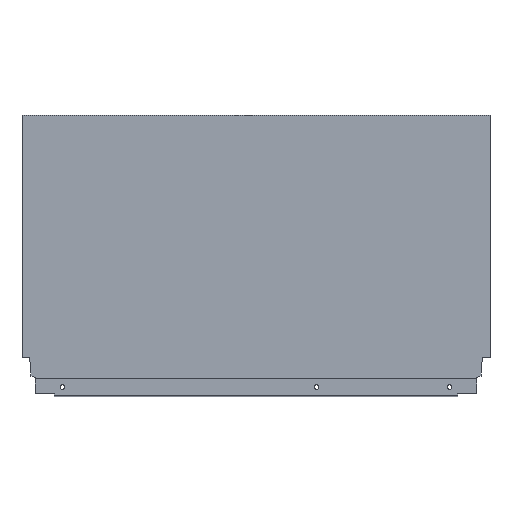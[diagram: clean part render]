
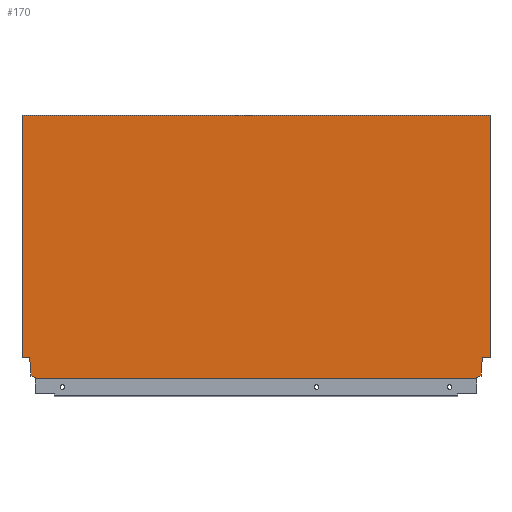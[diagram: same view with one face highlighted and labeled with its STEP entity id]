
A CAD part, top view. The second image highlights one B-rep face of the part: STEP entity #170.
In plain terms, the highlighted planar face has unit normal (0, 0, 1).
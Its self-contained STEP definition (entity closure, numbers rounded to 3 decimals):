
#2 = LINE ( 'NONE', #751, #1315 ) ;
#3 = VECTOR ( 'NONE', #752, 1000. ) ;
#4 = LINE ( 'NONE', #753, #3 ) ;
#5 = VECTOR ( 'NONE', #755, 1000. ) ;
#6 = LINE ( 'NONE', #756, #5 ) ;
#7 = VECTOR ( 'NONE', #757, 1000. ) ;
#8 = LINE ( 'NONE', #758, #7 ) ;
#113 = AXIS2_PLACEMENT_3D ( 'NONE', #950, #942, #940 ) ;
#170 = ADVANCED_FACE ( 'NONE', ( #374 ), #954, .T. ) ;
#258 = EDGE_CURVE ( 'NONE', #875, #1090, #309, .T. ) ;
#259 = EDGE_CURVE ( 'NONE', #875, #886, #316, .T. ) ;
#260 = EDGE_CURVE ( 'NONE', #1198, #1193, #1304, .T. ) ;
#262 = EDGE_CURVE ( 'NONE', #886, #1024, #1300, .T. ) ;
#263 = EDGE_CURVE ( 'NONE', #1193, #885, #1298, .T. ) ;
#264 = EDGE_CURVE ( 'NONE', #1097, #885, #1296, .T. ) ;
#265 = EDGE_CURVE ( 'NONE', #1024, #1198, #1294, .T. ) ;
#266 = EDGE_CURVE ( 'NONE', #933, #937, #1292, .T. ) ;
#267 = EDGE_CURVE ( 'NONE', #1040, #1090, #1290, .T. ) ;
#268 = EDGE_CURVE ( 'NONE', #895, #933, #8, .T. ) ;
#269 = EDGE_CURVE ( 'NONE', #937, #1040, #6, .T. ) ;
#270 = EDGE_CURVE ( 'NONE', #1171, #895, #4, .T. ) ;
#271 = EDGE_CURVE ( 'NONE', #1066, #1171, #2, .T. ) ;
#272 = EDGE_CURVE ( 'NONE', #1097, #1066, #1223, .T. ) ;
#309 = LINE ( 'NONE', #788, #1309 ) ;
#316 = LINE ( 'NONE', #794, #1307 ) ;
#374 = FACE_OUTER_BOUND ( 'NONE', #528, .T. ) ;
#522 = ORIENTED_EDGE ( 'NONE', *, *, #268, .F. ) ;
#523 = ORIENTED_EDGE ( 'NONE', *, *, #270, .F. ) ;
#528 = EDGE_LOOP ( 'NONE', ( #1321, #1322, #1323, #1324, #1546, #1545, #1544, #1543, #1542, #1541, #522, #523, #1338, #1355 ) ) ;
#618 = CARTESIAN_POINT ( 'NONE',  ( -13.004, 0., 8. ) ) ;
#625 = CARTESIAN_POINT ( 'NONE',  ( 0., 260.7, 8. ) ) ;
#632 = CARTESIAN_POINT ( 'NONE',  ( -13.004, 1.146, 8. ) ) ;
#637 = CARTESIAN_POINT ( 'NONE',  ( -454.1, 2.64, 8. ) ) ;
#661 = CARTESIAN_POINT ( 'NONE',  ( -8.9, 2.64, 8. ) ) ;
#662 = CARTESIAN_POINT ( 'NONE',  ( -8.9, 10.765, 8. ) ) ;
#674 = CARTESIAN_POINT ( 'NONE',  ( -463., 21.2, 8. ) ) ;
#677 = CARTESIAN_POINT ( 'NONE',  ( -449.996, 1.146, 8. ) ) ;
#689 = CARTESIAN_POINT ( 'NONE',  ( -7.06, 21.2, 8. ) ) ;
#693 = CARTESIAN_POINT ( 'NONE',  ( -449.996, 0., 8. ) ) ;
#746 = DIRECTION ( 'NONE',  ( 1., 0., 0. ) ) ;
#748 = CARTESIAN_POINT ( 'NONE',  ( -463., 260.7, 8. ) ) ;
#750 = DIRECTION ( 'NONE',  ( 0., -1., 0. ) ) ;
#751 = CARTESIAN_POINT ( 'NONE',  ( 0., 0., 8. ) ) ;
#752 = DIRECTION ( 'NONE',  ( -1., 0., 0. ) ) ;
#753 = CARTESIAN_POINT ( 'NONE',  ( 0., 21.2, 8. ) ) ;
#755 = DIRECTION ( 'NONE',  ( -0.94, -0.342, 0. ) ) ;
#756 = CARTESIAN_POINT ( 'NONE',  ( -8.9, 2.64, 8. ) ) ;
#757 = DIRECTION ( 'NONE',  ( -0.174, -0.985, 0. ) ) ;
#758 = CARTESIAN_POINT ( 'NONE',  ( -7.06, 21.2, 8. ) ) ;
#760 = DIRECTION ( 'NONE',  ( 0., -1., 0. ) ) ;
#761 = CARTESIAN_POINT ( 'NONE',  ( -13.004, 1.146, 8. ) ) ;
#763 = DIRECTION ( 'NONE',  ( 0., -1., 0. ) ) ;
#765 = CARTESIAN_POINT ( 'NONE',  ( -8.9, 10.765, 8. ) ) ;
#766 = DIRECTION ( 'NONE',  ( 0., 1., 0. ) ) ;
#767 = CARTESIAN_POINT ( 'NONE',  ( -454.1, 10.765, 8. ) ) ;
#769 = DIRECTION ( 'NONE',  ( 0., -1., 0. ) ) ;
#771 = CARTESIAN_POINT ( 'NONE',  ( -463., 0., 8. ) ) ;
#772 = DIRECTION ( 'NONE',  ( -1., 0., 0. ) ) ;
#774 = CARTESIAN_POINT ( 'NONE',  ( -468., 21.2, 8. ) ) ;
#775 = DIRECTION ( 'NONE',  ( -0.94, 0.342, 0. ) ) ;
#776 = CARTESIAN_POINT ( 'NONE',  ( -454.1, 2.64, 8. ) ) ;
#780 = DIRECTION ( 'NONE',  ( -0.174, 0.985, 0. ) ) ;
#782 = CARTESIAN_POINT ( 'NONE',  ( -455.94, 21.2, 8. ) ) ;
#783 = DIRECTION ( 'NONE',  ( 0., 1., 0. ) ) ;
#786 = DIRECTION ( 'NONE',  ( 1., 0., 0. ) ) ;
#788 = CARTESIAN_POINT ( 'NONE',  ( -463., 0., 8. ) ) ;
#794 = CARTESIAN_POINT ( 'NONE',  ( -449.996, 1.146, 8. ) ) ;
#875 = VERTEX_POINT ( 'NONE', #693 ) ;
#885 = VERTEX_POINT ( 'NONE', #674 ) ;
#886 = VERTEX_POINT ( 'NONE', #677 ) ;
#895 = VERTEX_POINT ( 'NONE', #689 ) ;
#933 = VERTEX_POINT ( 'NONE', #662 ) ;
#937 = VERTEX_POINT ( 'NONE', #661 ) ;
#940 = DIRECTION ( 'NONE',  ( 1., 0., 0. ) ) ;
#942 = DIRECTION ( 'NONE',  ( 0., 0., 1. ) ) ;
#950 = CARTESIAN_POINT ( 'NONE',  ( -463., 0., 8. ) ) ;
#954 = PLANE ( 'NONE',  #113 ) ;
#1024 = VERTEX_POINT ( 'NONE', #637 ) ;
#1040 = VERTEX_POINT ( 'NONE', #632 ) ;
#1066 = VERTEX_POINT ( 'NONE', #625 ) ;
#1090 = VERTEX_POINT ( 'NONE', #618 ) ;
#1097 = VERTEX_POINT ( 'NONE', #1273 ) ;
#1171 = VERTEX_POINT ( 'NONE', #1268 ) ;
#1193 = VERTEX_POINT ( 'NONE', #1252 ) ;
#1198 = VERTEX_POINT ( 'NONE', #1250 ) ;
#1223 = LINE ( 'NONE', #748, #1373 ) ;
#1250 = CARTESIAN_POINT ( 'NONE',  ( -454.1, 10.765, 8. ) ) ;
#1252 = CARTESIAN_POINT ( 'NONE',  ( -455.94, 21.2, 8. ) ) ;
#1268 = CARTESIAN_POINT ( 'NONE',  ( 0., 21.2, 8. ) ) ;
#1273 = CARTESIAN_POINT ( 'NONE',  ( -463., 260.7, 8. ) ) ;
#1289 = VECTOR ( 'NONE', #760, 1000. ) ;
#1290 = LINE ( 'NONE', #761, #1289 ) ;
#1291 = VECTOR ( 'NONE', #763, 1000. ) ;
#1292 = LINE ( 'NONE', #765, #1291 ) ;
#1293 = VECTOR ( 'NONE', #766, 1000. ) ;
#1294 = LINE ( 'NONE', #767, #1293 ) ;
#1295 = VECTOR ( 'NONE', #769, 1000. ) ;
#1296 = LINE ( 'NONE', #771, #1295 ) ;
#1297 = VECTOR ( 'NONE', #772, 1000. ) ;
#1298 = LINE ( 'NONE', #774, #1297 ) ;
#1299 = VECTOR ( 'NONE', #775, 1000. ) ;
#1300 = LINE ( 'NONE', #776, #1299 ) ;
#1303 = VECTOR ( 'NONE', #780, 1000. ) ;
#1304 = LINE ( 'NONE', #782, #1303 ) ;
#1307 = VECTOR ( 'NONE', #783, 1000. ) ;
#1309 = VECTOR ( 'NONE', #786, 1000. ) ;
#1315 = VECTOR ( 'NONE', #750, 1000. ) ;
#1321 = ORIENTED_EDGE ( 'NONE', *, *, #264, .T. ) ;
#1322 = ORIENTED_EDGE ( 'NONE', *, *, #263, .F. ) ;
#1323 = ORIENTED_EDGE ( 'NONE', *, *, #260, .F. ) ;
#1324 = ORIENTED_EDGE ( 'NONE', *, *, #265, .F. ) ;
#1338 = ORIENTED_EDGE ( 'NONE', *, *, #271, .F. ) ;
#1355 = ORIENTED_EDGE ( 'NONE', *, *, #272, .F. ) ;
#1373 = VECTOR ( 'NONE', #746, 1000. ) ;
#1541 = ORIENTED_EDGE ( 'NONE', *, *, #266, .F. ) ;
#1542 = ORIENTED_EDGE ( 'NONE', *, *, #269, .F. ) ;
#1543 = ORIENTED_EDGE ( 'NONE', *, *, #267, .F. ) ;
#1544 = ORIENTED_EDGE ( 'NONE', *, *, #258, .T. ) ;
#1545 = ORIENTED_EDGE ( 'NONE', *, *, #259, .F. ) ;
#1546 = ORIENTED_EDGE ( 'NONE', *, *, #262, .F. ) ;
